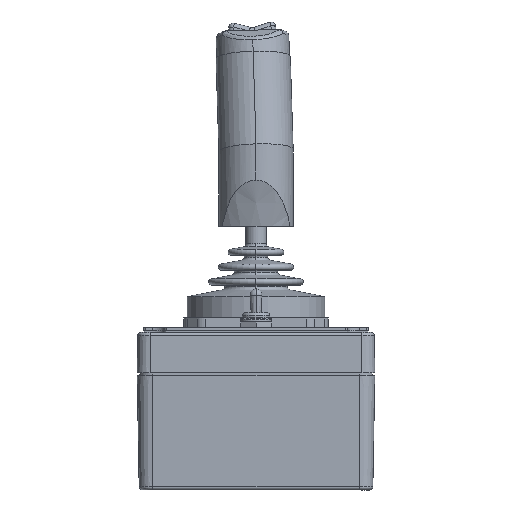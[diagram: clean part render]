
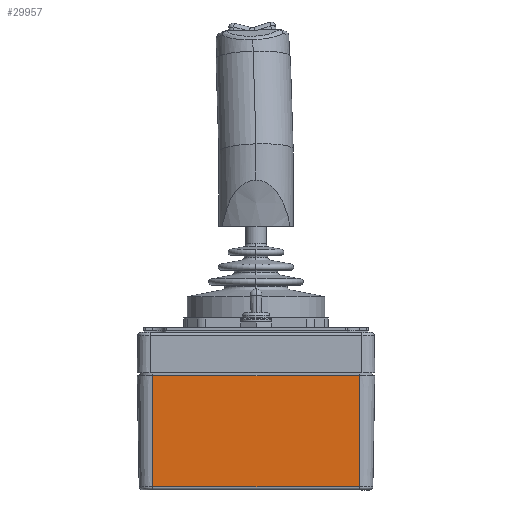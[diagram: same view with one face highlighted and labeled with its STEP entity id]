
A CAD part, front view. The second image highlights one B-rep face of the part: STEP entity #29957.
In plain terms, the highlighted planar face has unit normal (0, -1, -0.018).
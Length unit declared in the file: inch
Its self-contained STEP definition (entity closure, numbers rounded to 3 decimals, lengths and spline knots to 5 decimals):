
#3955 = DIRECTION ( 'NONE',  ( 0., 0.017, -1. ) ) ;
#5493 = VECTOR ( 'NONE', #30520, 39.37008 ) ;
#5613 = VERTEX_POINT ( 'NONE', #23341 ) ;
#7130 = ORIENTED_EDGE ( 'NONE', *, *, #47489, .T. ) ;
#7767 = CARTESIAN_POINT ( 'NONE',  ( 5.5073, 2.17695, 5.15721 ) ) ;
#8024 = LINE ( 'NONE', #29479, #27109 ) ;
#8668 = VECTOR ( 'NONE', #38358, 39.37008 ) ;
#9879 = AXIS2_PLACEMENT_3D ( 'NONE', #12613, #39213, #16448 ) ;
#10495 = DIRECTION ( 'NONE',  ( -1., 0., 0. ) ) ;
#11773 = CARTESIAN_POINT ( 'NONE',  ( 1.3323, 2.21612, 2.91312 ) ) ;
#12613 = CARTESIAN_POINT ( 'NONE',  ( 5.5073, 2.17459, 5.29221 ) ) ;
#13166 = ORIENTED_EDGE ( 'NONE', *, *, #49113, .F. ) ;
#14118 = ORIENTED_EDGE ( 'NONE', *, *, #34542, .T. ) ;
#16136 = CARTESIAN_POINT ( 'NONE',  ( 5.5073, 2.17695, 5.15721 ) ) ;
#16448 = DIRECTION ( 'NONE',  ( -1., 0., 0. ) ) ;
#16631 = EDGE_CURVE ( 'NONE', #5613, #23655, #49202, .T. ) ;
#18300 = VERTEX_POINT ( 'NONE', #16136 ) ;
#23341 = CARTESIAN_POINT ( 'NONE',  ( 1.3323, 2.21612, 2.91312 ) ) ;
#23655 = VERTEX_POINT ( 'NONE', #29925 ) ;
#24327 = CARTESIAN_POINT ( 'NONE',  ( 1.3323, 2.17695, 5.15721 ) ) ;
#26299 = LINE ( 'NONE', #26736, #5493 ) ;
#26736 = CARTESIAN_POINT ( 'NONE',  ( 1.3323, 2.17695, 5.15721 ) ) ;
#27109 = VECTOR ( 'NONE', #10495, 39.37008 ) ;
#29110 = FACE_OUTER_BOUND ( 'NONE', #34148, .T. ) ;
#29479 = CARTESIAN_POINT ( 'NONE',  ( 5.5073, 2.17695, 5.15721 ) ) ;
#29925 = CARTESIAN_POINT ( 'NONE',  ( 5.5073, 2.21612, 2.91312 ) ) ;
#29957 = ADVANCED_FACE ( 'NONE', ( #29110 ), #35394, .T. ) ;
#30520 = DIRECTION ( 'NONE',  ( 0., 0.017, -1. ) ) ;
#31000 = VERTEX_POINT ( 'NONE', #24327 ) ;
#34148 = EDGE_LOOP ( 'NONE', ( #47514, #13166, #7130, #14118 ) ) ;
#34542 = EDGE_CURVE ( 'NONE', #31000, #5613, #26299, .T. ) ;
#35394 = PLANE ( 'NONE',  #9879 ) ;
#38358 = DIRECTION ( 'NONE',  ( 1., 0., 0. ) ) ;
#39213 = DIRECTION ( 'NONE',  ( 0., -1., -0.017 ) ) ;
#44267 = VECTOR ( 'NONE', #3955, 39.37008 ) ;
#46655 = LINE ( 'NONE', #7767, #44267 ) ;
#47489 = EDGE_CURVE ( 'NONE', #18300, #31000, #8024, .T. ) ;
#47514 = ORIENTED_EDGE ( 'NONE', *, *, #16631, .T. ) ;
#49113 = EDGE_CURVE ( 'NONE', #18300, #23655, #46655, .T. ) ;
#49202 = LINE ( 'NONE', #11773, #8668 ) ;
